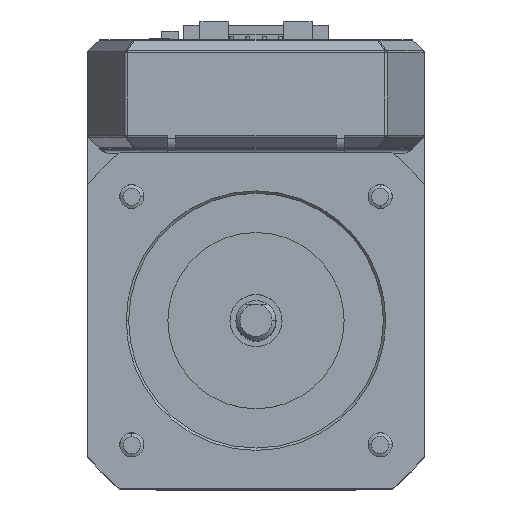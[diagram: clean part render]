
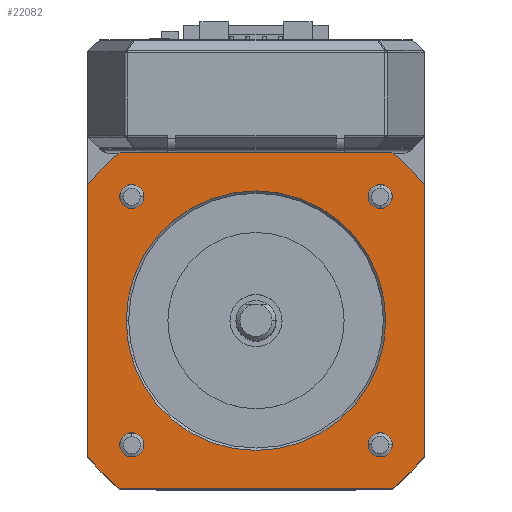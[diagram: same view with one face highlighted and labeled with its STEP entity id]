
A CAD part, top view. The second image highlights one B-rep face of the part: STEP entity #22082.
In plain terms, the highlighted planar face has unit normal (0, 0, 1).
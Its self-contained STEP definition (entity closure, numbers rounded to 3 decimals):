
#20624=DIRECTION('',(0.,1.,0.));
#20625=VECTOR('',#20624,33.941);
#20626=CARTESIAN_POINT('',(-21.,-16.971,8.));
#20627=LINE('',#20626,#20625);
#20675=DIRECTION('',(1.,0.,0.));
#20676=VECTOR('',#20675,33.941);
#20677=CARTESIAN_POINT('',(-16.971,21.,8.));
#20678=LINE('',#20677,#20676);
#20726=DIRECTION('',(0.,-1.,0.));
#20727=VECTOR('',#20726,33.941);
#20728=CARTESIAN_POINT('',(21.,16.971,8.));
#20729=LINE('',#20728,#20727);
#20777=DIRECTION('',(-1.,0.,0.));
#20778=VECTOR('',#20777,33.941);
#20779=CARTESIAN_POINT('',(16.971,-21.,8.));
#20780=LINE('',#20779,#20778);
#20835=CARTESIAN_POINT('',(0.,0.,8.));
#20836=DIRECTION('',(0.,0.,1.));
#20837=DIRECTION('',(0.629,-0.778,0.));
#20838=AXIS2_PLACEMENT_3D('',#20835,#20836,#20837);
#20843=CARTESIAN_POINT('',(0.,0.,8.));
#20844=DIRECTION('',(0.,0.,1.));
#20845=DIRECTION('',(-0.778,-0.629,0.));
#20846=AXIS2_PLACEMENT_3D('',#20843,#20844,#20845);
#20851=CARTESIAN_POINT('',(0.,0.,8.));
#20852=DIRECTION('',(0.,0.,1.));
#20853=DIRECTION('',(-0.629,0.778,0.));
#20854=AXIS2_PLACEMENT_3D('',#20851,#20852,#20853);
#20859=CARTESIAN_POINT('',(0.,0.,8.));
#20860=DIRECTION('',(0.,0.,1.));
#20861=DIRECTION('',(0.778,0.629,0.));
#20862=AXIS2_PLACEMENT_3D('',#20859,#20860,#20861);
#20867=CARTESIAN_POINT('',(0.,0.,8.));
#20868=DIRECTION('',(0.,0.,-1.));
#20869=DIRECTION('',(1.,0.,0.));
#20870=AXIS2_PLACEMENT_3D('',#20867,#20868,#20869);
#20875=CARTESIAN_POINT('',(0.,0.,8.));
#20876=DIRECTION('',(0.,0.,-1.));
#20877=DIRECTION('',(-1.,0.,0.));
#20878=AXIS2_PLACEMENT_3D('',#20875,#20876,#20877);
#20883=CARTESIAN_POINT('',(15.5,15.5,8.));
#20884=DIRECTION('',(0.,0.,-1.));
#20885=DIRECTION('',(1.,0.,0.));
#20886=AXIS2_PLACEMENT_3D('',#20883,#20884,#20885);
#20891=CARTESIAN_POINT('',(15.5,15.5,8.));
#20892=DIRECTION('',(0.,0.,-1.));
#20893=DIRECTION('',(-1.,0.,0.));
#20894=AXIS2_PLACEMENT_3D('',#20891,#20892,#20893);
#20899=CARTESIAN_POINT('',(-15.5,15.5,8.));
#20900=DIRECTION('',(0.,0.,-1.));
#20901=DIRECTION('',(1.,0.,0.));
#20902=AXIS2_PLACEMENT_3D('',#20899,#20900,#20901);
#20907=CARTESIAN_POINT('',(-15.5,15.5,8.));
#20908=DIRECTION('',(0.,0.,-1.));
#20909=DIRECTION('',(-1.,0.,0.));
#20910=AXIS2_PLACEMENT_3D('',#20907,#20908,#20909);
#20915=CARTESIAN_POINT('',(-15.5,-15.5,8.));
#20916=DIRECTION('',(0.,0.,-1.));
#20917=DIRECTION('',(1.,0.,0.));
#20918=AXIS2_PLACEMENT_3D('',#20915,#20916,#20917);
#20923=CARTESIAN_POINT('',(-15.5,-15.5,8.));
#20924=DIRECTION('',(0.,0.,-1.));
#20925=DIRECTION('',(-1.,0.,0.));
#20926=AXIS2_PLACEMENT_3D('',#20923,#20924,#20925);
#20931=CARTESIAN_POINT('',(15.5,-15.5,8.));
#20932=DIRECTION('',(0.,0.,-1.));
#20933=DIRECTION('',(-1.,0.,0.));
#20934=AXIS2_PLACEMENT_3D('',#20931,#20932,#20933);
#20939=CARTESIAN_POINT('',(15.5,-15.5,8.));
#20940=DIRECTION('',(0.,0.,-1.));
#20941=DIRECTION('',(1.,0.,0.));
#20942=AXIS2_PLACEMENT_3D('',#20939,#20940,#20941);
#21456=CARTESIAN_POINT('',(14.,-15.5,8.));
#21458=VERTEX_POINT('',#21456);
#21462=CARTESIAN_POINT('',(17.,-15.5,8.));
#21463=VERTEX_POINT('',#21462);
#21464=CARTESIAN_POINT('',(-16.2,0.,8.));
#21466=VERTEX_POINT('',#21464);
#21470=CARTESIAN_POINT('',(16.2,0.,8.));
#21471=VERTEX_POINT('',#21470);
#21472=CARTESIAN_POINT('',(14.,15.5,8.));
#21474=VERTEX_POINT('',#21472);
#21478=CARTESIAN_POINT('',(17.,15.5,8.));
#21479=VERTEX_POINT('',#21478);
#21480=CARTESIAN_POINT('',(-17.,15.5,8.));
#21482=VERTEX_POINT('',#21480);
#21486=CARTESIAN_POINT('',(-14.,15.5,8.));
#21487=VERTEX_POINT('',#21486);
#21488=CARTESIAN_POINT('',(-17.,-15.5,8.));
#21490=VERTEX_POINT('',#21488);
#21494=CARTESIAN_POINT('',(-14.,-15.5,8.));
#21495=VERTEX_POINT('',#21494);
#21624=CARTESIAN_POINT('',(16.971,21.,8.));
#21625=VERTEX_POINT('',#21624);
#21626=CARTESIAN_POINT('',(21.,16.971,8.));
#21627=VERTEX_POINT('',#21626);
#21628=CARTESIAN_POINT('',(-16.971,21.,8.));
#21629=VERTEX_POINT('',#21628);
#21630=CARTESIAN_POINT('',(-21.,16.971,8.));
#21631=VERTEX_POINT('',#21630);
#21632=CARTESIAN_POINT('',(-21.,-16.971,8.));
#21633=VERTEX_POINT('',#21632);
#21634=CARTESIAN_POINT('',(-16.971,-21.,8.));
#21635=VERTEX_POINT('',#21634);
#21636=CARTESIAN_POINT('',(16.971,-21.,8.));
#21637=VERTEX_POINT('',#21636);
#21638=CARTESIAN_POINT('',(21.,-16.971,8.));
#21639=VERTEX_POINT('',#21638);
#22036=CARTESIAN_POINT('',(-21.,-21.,8.));
#22037=DIRECTION('',(0.,0.,1.));
#22038=DIRECTION('',(1.,0.,0.));
#22039=AXIS2_PLACEMENT_3D('',#22036,#22037,#22038);
#22040=PLANE('',#22039);
#22042=ORIENTED_EDGE('',*,*,#22041,.F.);
#22043=ORIENTED_EDGE('',*,*,#21957,.T.);
#22044=ORIENTED_EDGE('',*,*,#22023,.F.);
#22045=ORIENTED_EDGE('',*,*,#21744,.T.);
#22046=ORIENTED_EDGE('',*,*,#21795,.F.);
#22047=ORIENTED_EDGE('',*,*,#21817,.T.);
#22049=ORIENTED_EDGE('',*,*,#22048,.F.);
#22050=ORIENTED_EDGE('',*,*,#21887,.T.);
#22051=EDGE_LOOP('',(#22042,#22043,#22044,#22045,#22046,#22047,#22049,#22050));
#22052=FACE_OUTER_BOUND('',#22051,.F.);
#22054=ORIENTED_EDGE('',*,*,#22053,.F.);
#22056=ORIENTED_EDGE('',*,*,#22055,.F.);
#22057=EDGE_LOOP('',(#22054,#22056));
#22058=FACE_BOUND('',#22057,.F.);
#22060=ORIENTED_EDGE('',*,*,#22059,.F.);
#22062=ORIENTED_EDGE('',*,*,#22061,.F.);
#22063=EDGE_LOOP('',(#22060,#22062));
#22064=FACE_BOUND('',#22063,.F.);
#22066=ORIENTED_EDGE('',*,*,#22065,.F.);
#22068=ORIENTED_EDGE('',*,*,#22067,.F.);
#22069=EDGE_LOOP('',(#22066,#22068));
#22070=FACE_BOUND('',#22069,.F.);
#22072=ORIENTED_EDGE('',*,*,#22071,.F.);
#22074=ORIENTED_EDGE('',*,*,#22073,.F.);
#22075=EDGE_LOOP('',(#22072,#22074));
#22076=FACE_BOUND('',#22075,.F.);
#22078=ORIENTED_EDGE('',*,*,#22077,.F.);
#22079=ORIENTED_EDGE('',*,*,#21649,.F.);
#22080=EDGE_LOOP('',(#22078,#22079));
#22081=FACE_BOUND('',#22080,.F.);
#22082=ADVANCED_FACE('',(#22052,#22058,#22064,#22070,#22076,#22081),#22040,.T.);
#20839=CIRCLE('',#20838,27.);
#20847=CIRCLE('',#20846,27.);
#20855=CIRCLE('',#20854,27.);
#20863=CIRCLE('',#20862,27.);
#20871=CIRCLE('',#20870,16.2);
#20879=CIRCLE('',#20878,16.2);
#20887=CIRCLE('',#20886,1.5);
#20895=CIRCLE('',#20894,1.5);
#20903=CIRCLE('',#20902,1.5);
#20911=CIRCLE('',#20910,1.5);
#20919=CIRCLE('',#20918,1.5);
#20927=CIRCLE('',#20926,1.5);
#20935=CIRCLE('',#20934,1.5);
#20943=CIRCLE('',#20942,1.5);
#21649=EDGE_CURVE('',#21463,#21458,#20943,.T.);
#21744=EDGE_CURVE('',#21633,#21631,#20627,.T.);
#21795=EDGE_CURVE('',#21629,#21631,#20855,.T.);
#21817=EDGE_CURVE('',#21629,#21625,#20678,.T.);
#21887=EDGE_CURVE('',#21627,#21639,#20729,.T.);
#21957=EDGE_CURVE('',#21637,#21635,#20780,.T.);
#22023=EDGE_CURVE('',#21633,#21635,#20847,.T.);
#22041=EDGE_CURVE('',#21637,#21639,#20839,.T.);
#22048=EDGE_CURVE('',#21627,#21625,#20863,.T.);
#22053=EDGE_CURVE('',#21471,#21466,#20871,.T.);
#22055=EDGE_CURVE('',#21466,#21471,#20879,.T.);
#22059=EDGE_CURVE('',#21479,#21474,#20887,.T.);
#22061=EDGE_CURVE('',#21474,#21479,#20895,.T.);
#22065=EDGE_CURVE('',#21487,#21482,#20903,.T.);
#22067=EDGE_CURVE('',#21482,#21487,#20911,.T.);
#22071=EDGE_CURVE('',#21495,#21490,#20919,.T.);
#22073=EDGE_CURVE('',#21490,#21495,#20927,.T.);
#22077=EDGE_CURVE('',#21458,#21463,#20935,.T.);
